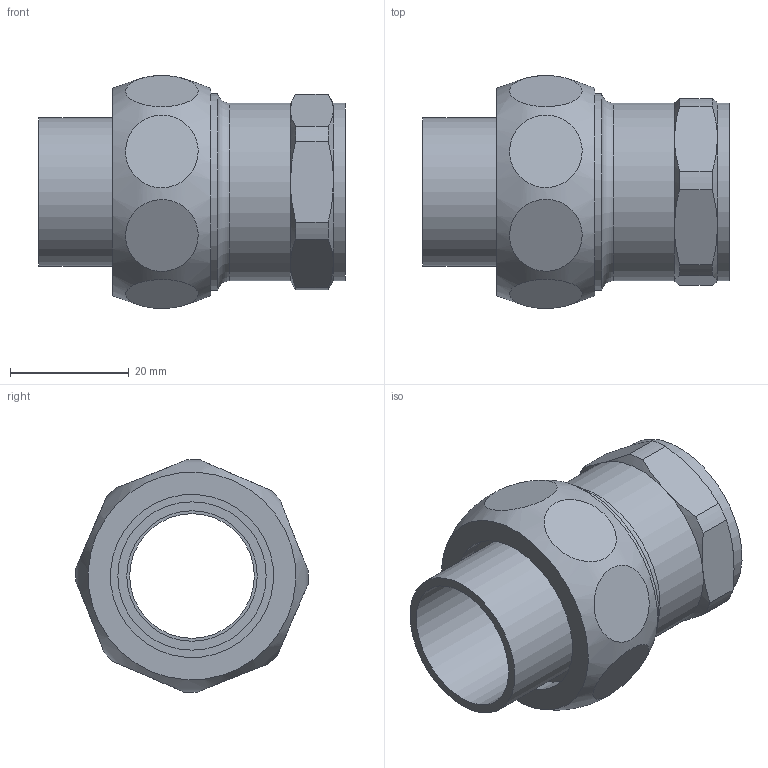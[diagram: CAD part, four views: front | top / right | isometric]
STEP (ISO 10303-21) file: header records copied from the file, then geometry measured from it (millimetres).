
FILE_DESCRIPTION(/* description */ (''),/* implementation_level */ '2;1');
FILE_NAME(/* name */ '\\lg50001\SANHA_Legnica\Engineering\Public\RYSUNKI\SANHA POLSKA\4340G\STP\143402234.stp',/* time_stamp */ '2016-02-04T08:33:01+01:00',/* author */ ('gomulka'),/* organization */ (''),/* preprocessor_version */ 'ST-DEVELOPER v15.6',/* originating_system */ 'Autodesk Inventor 2015',/* authorisation */ '');
FILE_SCHEMA (('AUTOMOTIVE_DESIGN { 1 0 10303 214 3 1 1 }'));
Length unit declared in the file: millimetre
Products named in the file (4): 14381_22-1(3); 14380_34-1(2); 14374_1; 143402234
Assembly tree (3 placements, depth 2):
  143402234
    14381_22-1(3)
    14380_34-1(2)
    14374_1
Bounding box: 51.66 x 39.27 x 39.27 mm (x, y, z)
Volume: 20146.3 mm3; surface area: 14337.6 mm2
Topology: 3 solids, 3 shells, 61 faces, 121 edges, 77 vertices
Faces by surface type: plane 24, cylinder 18, cone 16, torus 2, bspline 1
Full cylindrical faces by diameter (mm): 21 x1, 22 x2, 24.117 x1, 25 x1, 27.5 x2, 29.5 x1, 30 x2, 30.291 x1, 33.249 x1
Entity records: 2032 total; most frequent: CARTESIAN_POINT 786, DIRECTION 254, ORIENTED_EDGE 204, AXIS2_PLACEMENT_3D 121, EDGE_CURVE 102, EDGE_LOOP 96, VERTEX_POINT 76, FACE_OUTER_BOUND 61
